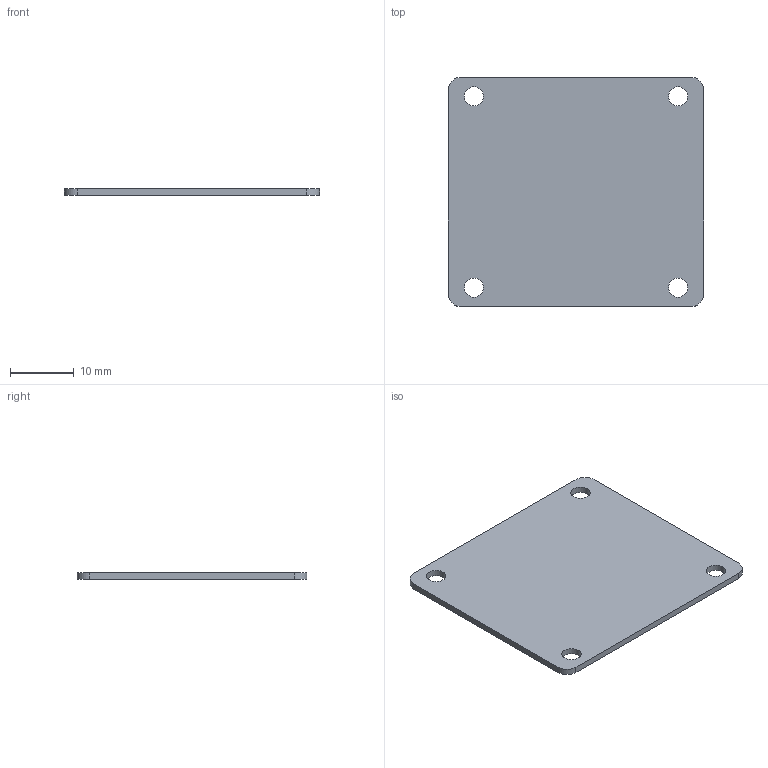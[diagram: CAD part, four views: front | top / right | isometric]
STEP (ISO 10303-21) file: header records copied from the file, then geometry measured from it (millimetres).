
FILE_DESCRIPTION(/* description */ (''),/* implementation_level */ '2;1');
FILE_NAME(/* name */ 'p_Aethalometer-Flachdichtung_B-01.stp',/* time_stamp */ '2020-02-07T10:54:31+01:00',/* author */ (''),/* organization */ (''),/* preprocessor_version */ 'ST-DEVELOPER v16.7',/* originating_system */ 'SIEMENS PLM Software NX 12.0',/* authorisation */ '');
FILE_SCHEMA (('AUTOMOTIVE_DESIGN { 1 0 10303 214 3 1 1 1 }'));
Length unit declared in the file: millimetre
Products named in the file (1): p_Aethalometer-Flachdichtung_B-01
Bounding box: 40 x 36 x 1 mm (x, y, z)
Surface area: 6005.7 mm2
Topology: 2 solids, 2 shells, 28 faces, 88 edges, 73 vertices
Faces by surface type: cylinder 16, plane 12
Full cylindrical faces by diameter (mm): 3 x8
Entity records: 1013 total; most frequent: DIRECTION 174, CARTESIAN_POINT 154, ORIENTED_EDGE 128, AXIS2_PLACEMENT_3D 69, EDGE_CURVE 64, EDGE_LOOP 52, VERTEX_POINT 48, CIRCLE 40
